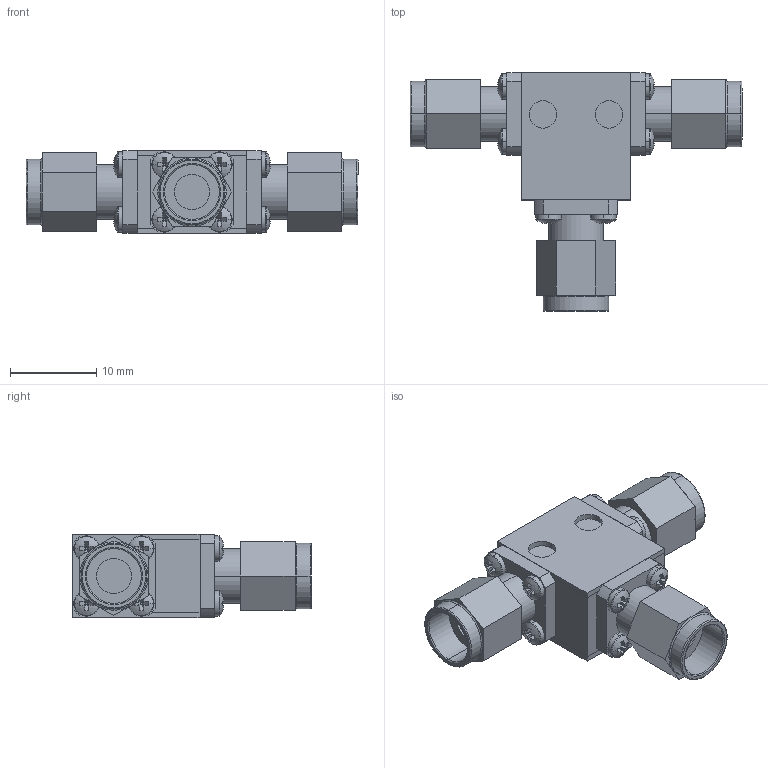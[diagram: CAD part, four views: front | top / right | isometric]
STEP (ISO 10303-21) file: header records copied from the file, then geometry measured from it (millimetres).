
FILE_DESCRIPTION (( 'STEP AP214' ), '1' );
FILE_NAME ('Package 11 Circ MMM.step', '2021-12-01T20:56:59', ( '' ), ( '' ), 'SwSTEP 2.0', 'SolidWorks 2016', '' );
FILE_SCHEMA (( 'AUTOMOTIVE_DESIGN' ));
Length unit declared in the file: inch
Products named in the file (5): pan cross head_ai_CR-PHMS 0.06-80x0.125x0.125-N; Delta SMA-Male 0.375 flagne; Package 11 Circ MMM; Package Size 11; Package 11
Assembly tree (17 placements, depth 2):
  Package 11 Circ MMM
    Package Size 11
    Package 11
    pan cross head_ai_CR-PHMS 0.06-80x0.125x0.125-N  x12
    Delta SMA-Male 0.375 flagne  x3
Bounding box: 38.46 x 27.61 x 9.65 mm (x, y, z)
Volume: 3198.3 mm3; surface area: 4461.5 mm2
Topology: 17 solids, 17 shells, 441 faces, 1002 edges, 616 vertices
Faces by surface type: plane 259, cylinder 116, torus 42, sphere 24
Entity records: 3100 total; most frequent: DIRECTION 556, CARTESIAN_POINT 480, ORIENTED_EDGE 448, EDGE_CURVE 224, AXIS2_PLACEMENT_3D 218, VERTEX_POINT 142, LINE 120, VECTOR 120
